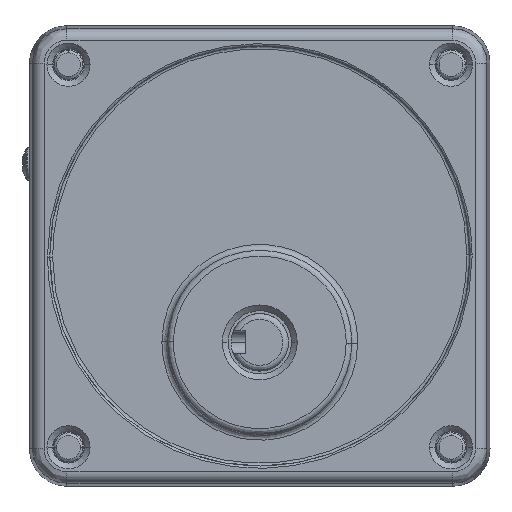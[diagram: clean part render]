
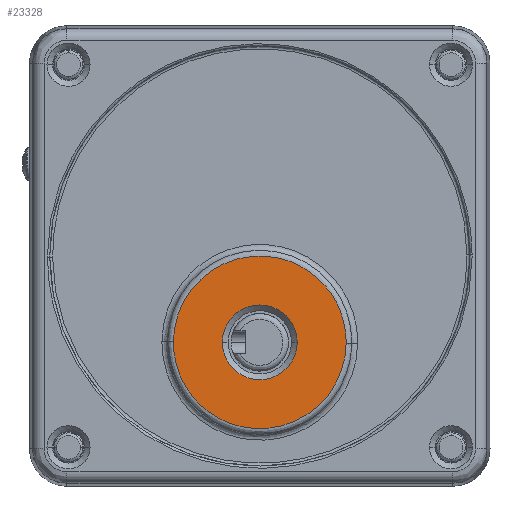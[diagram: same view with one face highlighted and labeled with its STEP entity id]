
A CAD part, front view. The second image highlights one B-rep face of the part: STEP entity #23328.
In plain terms, the highlighted planar face has unit normal (0, -1, 0) as drawn and (0, 0, 1) by its records, which use the part's own axes.
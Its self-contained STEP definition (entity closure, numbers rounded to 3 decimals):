
#424 = CARTESIAN_POINT ( 'NONE',  ( 14.999, -15.187, 35. ) ) ;
#573 = CARTESIAN_POINT ( 'NONE',  ( -14.629, 14.814, 35. ) ) ;
#1708 = EDGE_CURVE ( 'NONE', #5599, #26645, #25780, .T. ) ;
#2223 = EDGE_CURVE ( 'NONE', #9920, #25583, #11592, .T. ) ;
#3648 = DIRECTION ( 'NONE',  ( 0.006, 1., 0. ) ) ;
#3966 = AXIS2_PLACEMENT_3D ( 'NONE', #11593, #23175, #34713 ) ;
#4999 = EDGE_LOOP ( 'NONE', ( #30504, #14449, #30923, #9813 ) ) ;
#5487 = EDGE_CURVE ( 'NONE', #26645, #5599, #25313, .T. ) ;
#5599 = VERTEX_POINT ( 'NONE', #32407 ) ;
#5705 = DIRECTION ( 'NONE',  ( 1., 0., 0. ) ) ;
#6921 = CARTESIAN_POINT ( 'NONE',  ( 0., -15., 35. ) ) ;
#8349 = AXIS2_PLACEMENT_3D ( 'NONE', #6921, #18499, #30053 ) ;
#9102 = EDGE_CURVE ( 'NONE', #25583, #21932, #24804, .T. ) ;
#9754 = FACE_OUTER_BOUND ( 'NONE', #4999, .T. ) ;
#9813 = ORIENTED_EDGE ( 'NONE', *, *, #11537, .F. ) ;
#9920 = VERTEX_POINT ( 'NONE', #18465 ) ;
#10377 = DIRECTION ( 'NONE',  ( -0.006, -1., 0. ) ) ;
#11222 = EDGE_LOOP ( 'NONE', ( #33025, #31375 ) ) ;
#11537 = EDGE_CURVE ( 'NONE', #25970, #9920, #18052, .T. ) ;
#11592 =( BOUNDED_CURVE ( )  B_SPLINE_CURVE ( 3, ( #26538, #573, #12106, #23684 ),
 .UNSPECIFIED., .F., .F. ) 
 B_SPLINE_CURVE_WITH_KNOTS ( ( 4, 4 ),
 ( 0., 1. ),
 .UNSPECIFIED. ) 
 CURVE ( )  GEOMETRIC_REPRESENTATION_ITEM ( )  RATIONAL_B_SPLINE_CURVE ( ( 1., 0.337, 0.337, 1. ) ) 
 REPRESENTATION_ITEM ( '' )  );
#11593 = CARTESIAN_POINT ( 'NONE',  ( 0., -15., 35. ) ) ;
#11965 = CARTESIAN_POINT ( 'NONE',  ( 14.629, -44.814, 35. ) ) ;
#12106 = CARTESIAN_POINT ( 'NONE',  ( 15., 14.629, 35. ) ) ;
#12505 = CARTESIAN_POINT ( 'NONE',  ( 15., -15., 35. ) ) ;
#13594 =( BOUNDED_CURVE ( )  B_SPLINE_CURVE ( 3, ( #424, #11965, #23557, #35089 ),
 .UNSPECIFIED., .F., .F. ) 
 B_SPLINE_CURVE_WITH_KNOTS ( ( 4, 4 ),
 ( 0., 1. ),
 .UNSPECIFIED. ) 
 CURVE ( )  GEOMETRIC_REPRESENTATION_ITEM ( )  RATIONAL_B_SPLINE_CURVE ( ( 1., 0.337, 0.337, 1. ) ) 
 REPRESENTATION_ITEM ( '' )  );
#14449 = ORIENTED_EDGE ( 'NONE', *, *, #9102, .F. ) ;
#17753 = VECTOR ( 'NONE', #10377, 1000. ) ;
#18052 = LINE ( 'NONE', #29614, #26642 ) ;
#18465 = CARTESIAN_POINT ( 'NONE',  ( -14.999, -14.813, 35. ) ) ;
#18499 = DIRECTION ( 'NONE',  ( 0., 0., 1. ) ) ;
#20116 = CARTESIAN_POINT ( 'NONE',  ( 0., -15., 35. ) ) ;
#20473 = AXIS2_PLACEMENT_3D ( 'NONE', #20116, #31665, #5705 ) ;
#21340 = FACE_BOUND ( 'NONE', #11222, .T. ) ;
#21932 = VERTEX_POINT ( 'NONE', #29897 ) ;
#22931 = EDGE_CURVE ( 'NONE', #21932, #25970, #13594, .T. ) ;
#23175 = DIRECTION ( 'NONE',  ( 0., 0., -1. ) ) ;
#23328 = ADVANCED_FACE ( 'NONE', ( #9754, #21340 ), #32896, .T. ) ;
#23557 = CARTESIAN_POINT ( 'NONE',  ( -15., -44.629, 35. ) ) ;
#23675 = CARTESIAN_POINT ( 'NONE',  ( -15., -15., 35. ) ) ;
#23684 = CARTESIAN_POINT ( 'NONE',  ( 15., -15., 35. ) ) ;
#24804 = LINE ( 'NONE', #36355, #17753 ) ;
#25313 = CIRCLE ( 'NONE', #20473, 6.5 ) ;
#25583 = VERTEX_POINT ( 'NONE', #12505 ) ;
#25780 = CIRCLE ( 'NONE', #3966, 6.5 ) ;
#25970 = VERTEX_POINT ( 'NONE', #23675 ) ;
#26538 = CARTESIAN_POINT ( 'NONE',  ( -14.999, -14.813, 35. ) ) ;
#26642 = VECTOR ( 'NONE', #3648, 1000. ) ;
#26645 = VERTEX_POINT ( 'NONE', #34945 ) ;
#29614 = CARTESIAN_POINT ( 'NONE',  ( -15., -15., 35. ) ) ;
#29897 = CARTESIAN_POINT ( 'NONE',  ( 14.999, -15.187, 35. ) ) ;
#30053 = DIRECTION ( 'NONE',  ( 1., 0., 0. ) ) ;
#30504 = ORIENTED_EDGE ( 'NONE', *, *, #22931, .F. ) ;
#30923 = ORIENTED_EDGE ( 'NONE', *, *, #2223, .F. ) ;
#31375 = ORIENTED_EDGE ( 'NONE', *, *, #1708, .T. ) ;
#31665 = DIRECTION ( 'NONE',  ( 0., 0., -1. ) ) ;
#32407 = CARTESIAN_POINT ( 'NONE',  ( -6.5, -15., 35. ) ) ;
#32896 = PLANE ( 'NONE',  #8349 ) ;
#33025 = ORIENTED_EDGE ( 'NONE', *, *, #5487, .T. ) ;
#34713 = DIRECTION ( 'NONE',  ( 1., 0., 0. ) ) ;
#34945 = CARTESIAN_POINT ( 'NONE',  ( 6.5, -15., 35. ) ) ;
#35089 = CARTESIAN_POINT ( 'NONE',  ( -15., -15., 35. ) ) ;
#36355 = CARTESIAN_POINT ( 'NONE',  ( 15., -15., 35. ) ) ;
